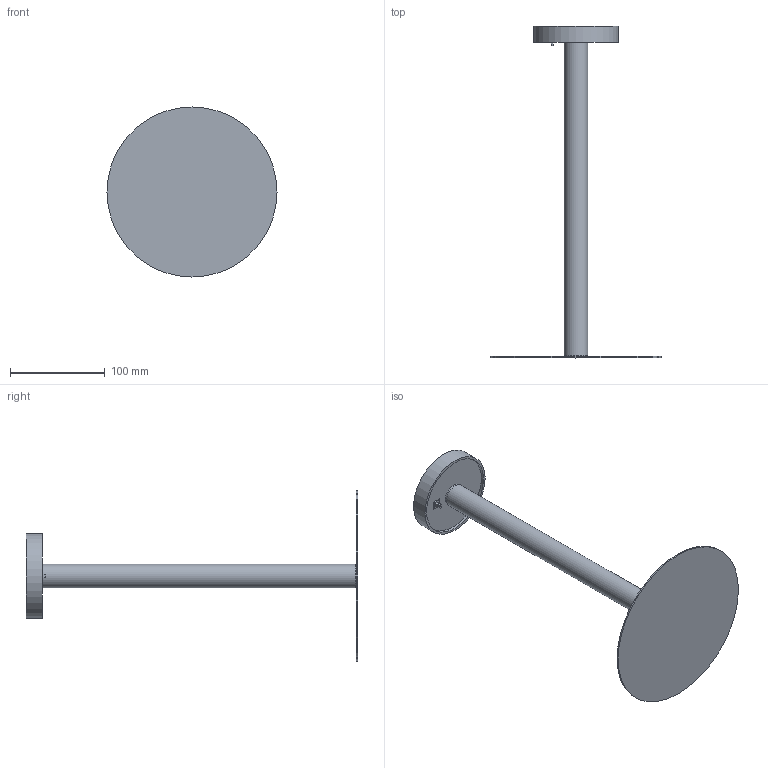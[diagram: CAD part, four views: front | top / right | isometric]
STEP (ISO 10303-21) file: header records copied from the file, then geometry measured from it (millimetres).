
FILE_DESCRIPTION(/* description */ (''),/* implementation_level */ '2;1');
FILE_NAME(/* name */ 'C:\Users\Giulia\Dropbox\CAD 3D_ LISTINO 2016\CAD 3D_EU 2016\TETATET\1705XX00B - TETATET.stp',/* time_stamp */ '2016-03-23T10:32:30+01:00',/* author */ ('Giulia'),/* organization */ (''),/* preprocessor_version */ 'ST-DEVELOPER v16.1',/* originating_system */ 'Autodesk Inventor 2016',/* authorisation */ '');
FILE_SCHEMA (('AUTOMOTIVE_DESIGN { 1 0 10303 214 3 1 1 }'));
Length unit declared in the file: centimetre
Products named in the file (1): 1705 - TETATET
Bounding box: 180 x 351 x 180 mm (x, y, z)
Volume: 262190.8 mm3; surface area: 110684.7 mm2
Topology: 2 solids, 2 shells, 40 faces, 84 edges, 56 vertices
Faces by surface type: plane 28, cylinder 12
Full cylindrical faces by diameter (mm): 20 x1, 22.7 x1, 23.5 x1, 25 x1, 84.5 x1, 85 x1, 90 x1, 180 x1
Entity records: 1080 total; most frequent: DIRECTION 182, CARTESIAN_POINT 173, ORIENTED_EDGE 152, EDGE_CURVE 76, AXIS2_PLACEMENT_3D 65, EDGE_LOOP 60, VERTEX_POINT 56, LINE 52
